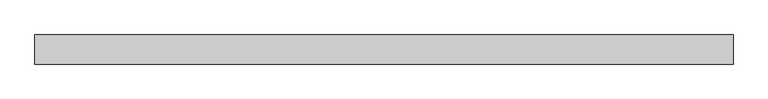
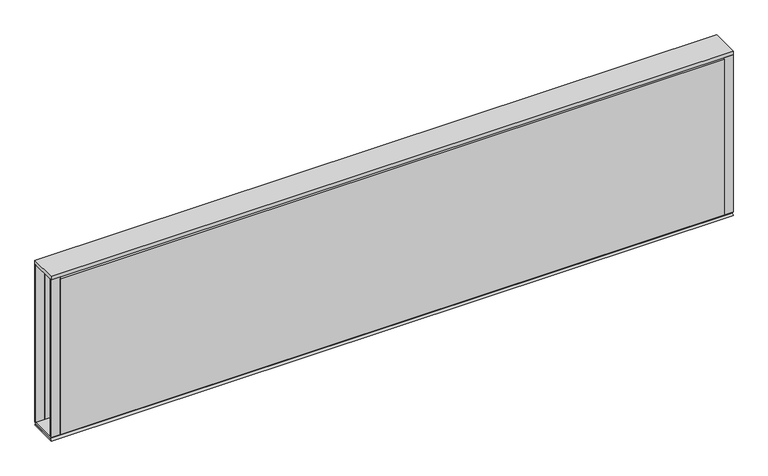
"""IFC4 building model written with IfcOpenShell, lengths in millimetres: furniture geometry, Steelcase - Kick Solutions - Panel - Stacker - Tackable Acoustical : 12H x 48W."""

from ifc_helpers import new_model, si_unit, frame, origin, place, context, project, spatial, polyline, outline, extrude, source, transform, mapped, element, save


def furniture_cd9286fc(model_context):
    return source(origin(), model_context, "Body", "SweptSolid", [
        extrude(outline(polyline([(-50.7995075, 1073.2669139), (-0.000494, 1073.2669139), (-3.1752531, 1070.0921549), (-47.6247484, 1070.0921549), (-50.7995075, 1073.2669139)])), frame((0.0, 0.0, 0.0), z_axis=(1.0, 0.0, 0.0), x_axis=(0.0, 1.0, 0.0)), (0.0, 0.0, 1.0), 1219.2),
        extrude(outline(polyline([(0.0, 1073.2669139), (-3.1750015, 1073.2669139), (-3.1750015, 1371.7169018), (0.0, 1368.6357466), (0.0, 1073.2669139)])), frame((15.8749996, 0.0, 0.0), z_axis=(1.0, 0.0, 0.0), x_axis=(0.0, 1.0, 0.0)), (0.0, 0.0, 1.0), 1187.4500008),
        extrude(outline(polyline([(-50.8000015, 1073.2669139), (-50.8000015, 1368.6357466), (-47.625, 1371.7169018), (-47.625, 1073.2669139), (-50.8000015, 1073.2669139)])), frame((15.8749996, 0.0, 0.0), z_axis=(1.0, 0.0, 0.0), x_axis=(0.0, 1.0, 0.0)), (0.0, 0.0, 1.0), 1187.4500008),
        extrude(outline(polyline([(1219.2, -3.1750015), (1203.3250004, -3.1750015), (1203.3250004, 0.0), (1219.2, 0.0), (1219.2, -3.1750015)])), frame((0.0, 0.0, 1073.2669139), z_axis=(0.0, 0.0, 1.0), x_axis=(1.0, 0.0, 0.0)), (0.0, 0.0, 1.0), 298.4499879),
        extrude(outline(polyline([(15.8749996, -50.8000015), (0.0, -50.8000015), (0.0, -47.625), (15.8749996, -47.625), (15.8749996, -50.8000015)])), frame((0.0, 0.0, 1073.2669139), z_axis=(0.0, 0.0, 1.0), x_axis=(1.0, 0.0, 0.0)), (0.0, 0.0, 1.0), 298.4499879),
        extrude(outline(polyline([(1219.2, 0.0), (1219.2, -50.8000015), (0.0, -50.8000015), (0.0, 0.0), (1219.2, 0.0)])), frame((0.0, 0.0, 1371.7169018), z_axis=(0.0, 0.0, 1.0), x_axis=(1.0, 0.0, 0.0)), (0.0, 0.0, 1.0), 6.35),
        extrude(outline(polyline([(15.8749996, -3.1750015), (0.0, -3.1750015), (0.0, 0.0), (15.8749996, 0.0), (15.8749996, -3.1750015)])), frame((0.0, 0.0, 1073.2669139), z_axis=(0.0, 0.0, 1.0), x_axis=(1.0, 0.0, 0.0)), (0.0, 0.0, 1.0), 298.4499879),
        extrude(outline(polyline([(1219.2, -50.8000015), (1203.3250004, -50.8000015), (1203.3250004, -47.625), (1219.2, -47.625), (1219.2, -50.8000015)])), frame((0.0, 0.0, 1073.2669139), z_axis=(0.0, 0.0, 1.0), x_axis=(1.0, 0.0, 0.0)), (0.0, 0.0, 1.0), 298.4499879),
        extrude(outline(polyline([(-50.8000015, 1066.9169018), (-47.6247484, 1070.0921549), (-3.1752531, 1070.0921549), (0.0, 1066.9169018), (-50.8000015, 1066.9169018)])), frame((0.0, 0.0, 0.0), z_axis=(1.0, 0.0, 0.0), x_axis=(0.0, 1.0, 0.0)), (0.0, 0.0, 1.0), 1219.2),
    ])


if __name__ == "__main__":
    model = new_model("IFC4")
    model_context = context("Model", 3, world=origin())
    ifc_project = project(units=[si_unit("LENGTHUNIT", "METRE", prefix="MILLI")], contexts=[model_context])
    site = spatial("IfcSite", under=ifc_project)
    building = spatial("IfcBuilding", under=site)
    placement = place(None, origin())
    furniture_shape = furniture_cd9286fc(model_context)
    element("IfcFurniture", 1, ObjectType="Steelcase - Kick Solutions - Panel - Stacker - Tackable Acoustical : 12H x 48W", at=placement, inside=building, context=model_context, shape_type="MappedRepresentation", body=[
        mapped(furniture_shape, transform((0.0, 0.0, 0.0), x_axis=(1.0, 0.0, 0.0), y_axis=(0.0, 1.0, 0.0), z_axis=(0.0, 0.0, 1.0))),
    ])
    save(model, "model.ifc")
